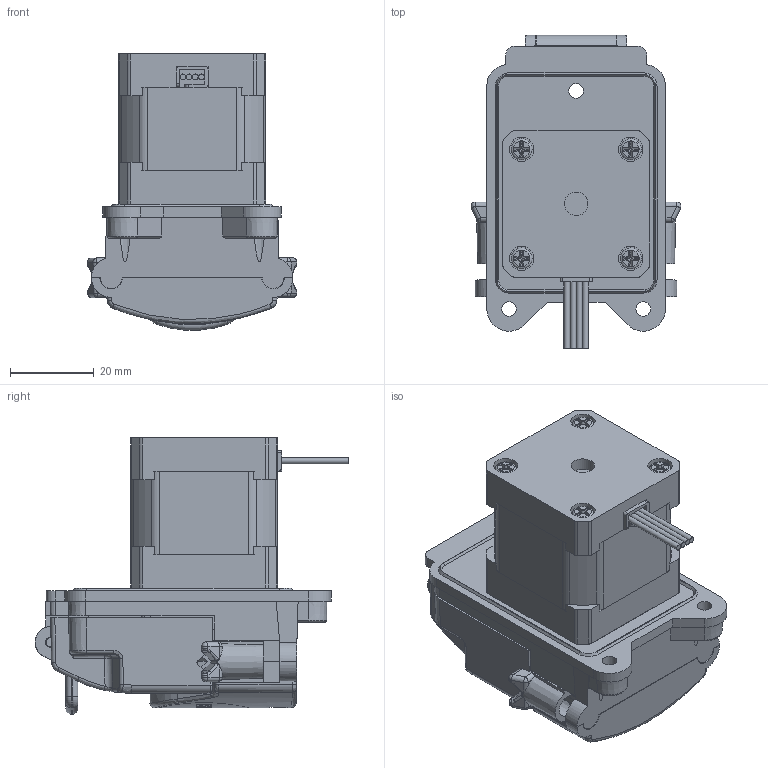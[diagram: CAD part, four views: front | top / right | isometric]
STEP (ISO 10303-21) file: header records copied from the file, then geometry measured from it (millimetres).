
FILE_DESCRIPTION (( 'STEP AP203' ), '1' );
FILE_NAME ('9800.7x0_9QX.STEP', '2024-06-13T14:22:11', ( '' ), ( '' ), 'SwSTEP 2.0', 'SolidWorks 2021', '' );
FILE_SCHEMA (( 'CONFIG_CONTROL_DESIGN' ));
Length unit declared in the file: millimetre
Products named in the file (13): countersunk flat head cross recess screw_iso_ISO 7046-1 - M3 x 16 - Z - 16S; 9000.3031_Rev01_9QX_TubeSaddle; K0315_M3X12MM_TX_DIN7985-ISO14583_M3X12mm; 9000.3040_Rev00_9QXScrewCover; 9000.3046_Rev00_9QX_StepperPlateCombi_11_01_22; 9000.3029_Rev00_9QX_Clamp_Pre Mod; 9800.7x0_9QX; 9000.3047_Rev01_9QX_GasketForCombiPlate; 9000.3013_Rev00_Lever; 9000.3030_Rev00_9QX_Front; countersunk flat head cross recess screw_iso_ISO 7046-1 - M2 x 8 - Z - 8S; K0757_2.5x10_DowelPin; 1678_Soyo_NU35STH36-1004A_Encoder_without Encoder
Assembly tree (17 placements, depth 2):
  9800.7x0_9QX
    9000.3046_Rev00_9QX_StepperPlateCombi_11_01_22
    9000.3047_Rev01_9QX_GasketForCombiPlate
    1678_Soyo_NU35STH36-1004A_Encoder_without Encoder
    9000.3029_Rev00_9QX_Clamp_Pre Mod
    9000.3013_Rev00_Lever
    9000.3030_Rev00_9QX_Front
    K0315_M3X12MM_TX_DIN7985-ISO14583_M3X12mm  x4
    K0757_2.5x10_DowelPin  x2
    countersunk flat head cross recess screw_iso_ISO 7046-1 - M3 x 16 - Z - 16S
    countersunk flat head cross recess screw_iso_ISO 7046-1 - M2 x 8 - Z - 8S
    9000.3031_Rev01_9QX_TubeSaddle  x2
    9000.3040_Rev00_9QXScrewCover
Bounding box: 50 x 74.75 x 65.84 mm (x, y, z)
Volume: 77446 mm3; surface area: 42254.6 mm2
Topology: 17 solids, 17 shells, 1992 faces, 4943 edges, 3009 vertices
Faces by surface type: plane 770, cylinder 524, bspline 300, cone 234, torus 108, sphere 56
Full cylindrical faces by diameter (mm): 1.4 x4, 2 x17, 2.4 x1, 2.5 x9, 2.7 x2, 2.8 x4, 2.95 x2, 3 x32, 3.2 x4, 3.5 x7, 3.8 x1, 4 x1, 5 x5, 5.2 x1, 5.5 x1, 5.6 x5, 5.8 x4, 6 x2, 7 x1, 10 x1, 12 x1, 22 x2, 22.2 x1
Entity records: 60368 total; most frequent: CARTESIAN_POINT 20097, ORIENTED_EDGE 8308, DIRECTION 7532, EDGE_CURVE 4154, AXIS2_PLACEMENT_3D 2829, VERTEX_POINT 2676, EDGE_LOOP 2102, FACE_OUTER_BOUND 1896
